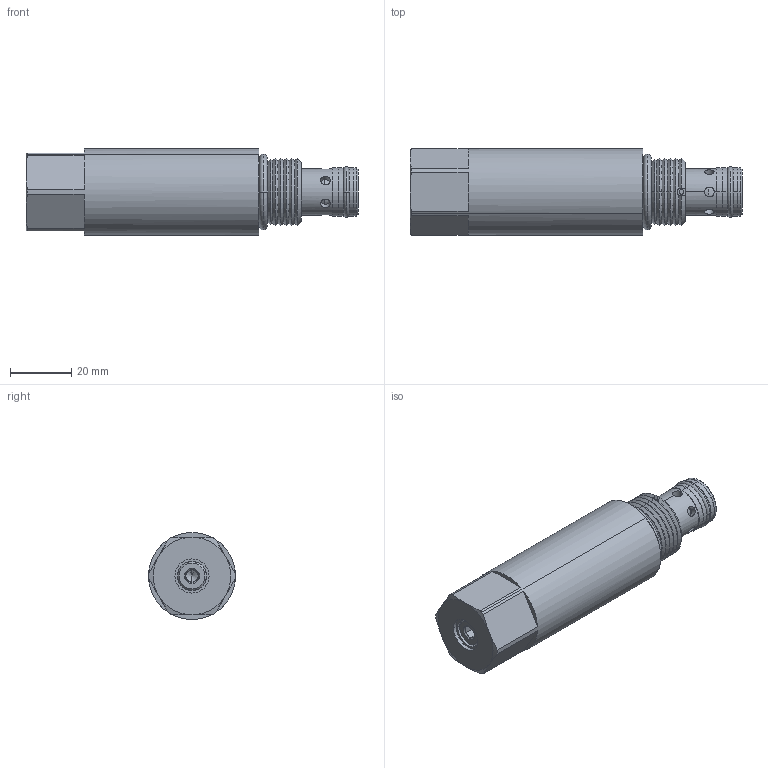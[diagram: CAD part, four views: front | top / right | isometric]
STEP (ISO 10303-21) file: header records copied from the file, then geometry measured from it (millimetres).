
FILE_DESCRIPTION((''),'2;1');
FILE_NAME('U:\Solid model CD\Solid model full\Mechanical\STEP\DERVB0I-3D Full.stp','2008-07-28T16:15:50',('Dan'),(''),'Autodesk Inventor 9','Autodesk Inventor 9','');
FILE_SCHEMA(('AUTOMOTIVE_DESIGN { 1 0 10303 214 1 1 1 1 }'));
Length unit declared in the file: inch
Products named in the file (6): DERVB0I-3D Full; DERVB0I-3D Full1; DERVB0I-3D Full2; DERVB0I-3D Full3; DERVB0I-3D Full4; DERVB0I-3D Full5
Assembly tree (5 placements, depth 2):
  DERVB0I-3D Full
    DERVB0I-3D Full1
    DERVB0I-3D Full2
    DERVB0I-3D Full3
    DERVB0I-3D Full4
    DERVB0I-3D Full5
Bounding box: 108.71 x 28.45 x 28.45 mm (x, y, z)
Volume: 54712.7 mm3; surface area: 12567.4 mm2
Topology: 5 solids, 5 shells, 148 faces, 358 edges, 220 vertices
Faces by surface type: cylinder 55, cone 44, plane 41, torus 8
Entity records: 4905 total; most frequent: CARTESIAN_POINT 1273, DIRECTION 765, ORIENTED_EDGE 712, EDGE_CURVE 356, AXIS2_PLACEMENT_3D 315, VERTEX_POINT 220, EDGE_LOOP 174, CIRCLE 156
